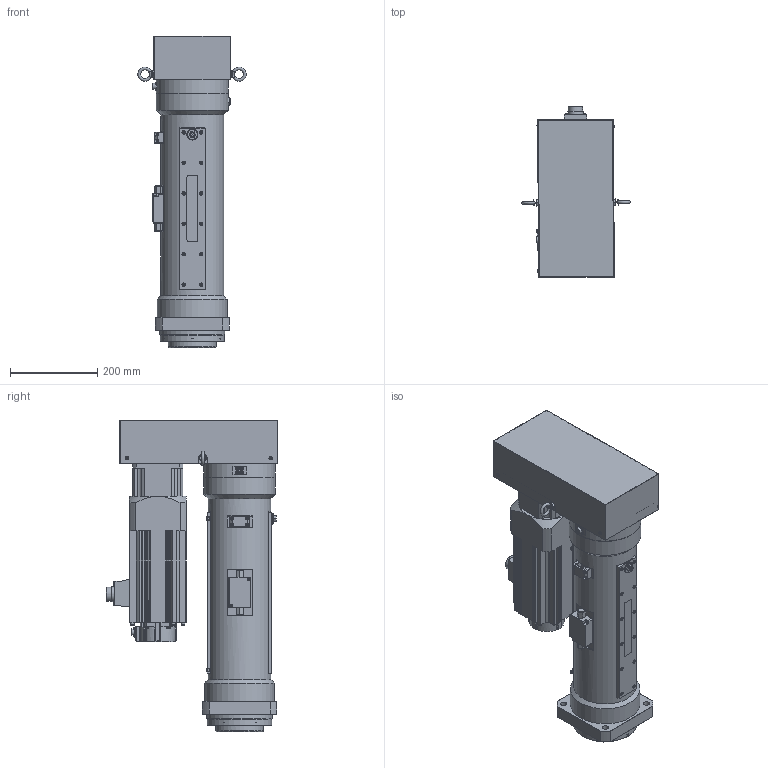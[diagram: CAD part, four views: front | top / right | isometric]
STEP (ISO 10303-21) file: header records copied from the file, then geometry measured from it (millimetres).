
FILE_DESCRIPTION(/* description */ (''),/* implementation_level */ '2;1');
FILE_NAME(/* name */ 'Z:\07.Product\01.Design\3D\1.P-All\OAICS-P\0000.Assembly\OACIS-P090,P100-300-150-A6V200.stp',/* time_stamp */ '2023-03-03T11:07:50+09:00',/* author */ ('magic'),/* organization */ (''),/* preprocessor_version */ 'ST-DEVELOPER v17',/* originating_system */ 'Autodesk Inventor 2019',/* authorisation */ '');
FILE_SCHEMA (('AUTOMOTIVE_DESIGN { 1 0 10303 214 3 1 1 }'));
Products named in the file (1): OACIS-P100-300-150-A6V200
Bounding box: 248.9 x 393.62 x 716 mm (x, y, z)
Volume: 14350638.8 mm3; surface area: 1659379.7 mm2
Topology: 3 solids, 8 shells, 2351 faces, 6442 edges, 4284 vertices
Faces by surface type: plane 1168, cylinder 686, cone 238, bspline 108, torus 91, sphere 60
Full cylindrical faces by diameter (mm): 1 x6, 2 x1, 2.113 x1, 3.242 x6, 3.317 x1, 4 x1, 4.134 x4, 5.8 x2, 6 x1, 6.5 x2, 6.647 x24, 6.75 x4, 7 x36, 7.2 x2, 7.24 x2, 7.8 x2, 8 x43, 8.376 x8, 8.5 x4, 9 x16, 9.188 x1, 9.5 x6, 10.3 x1, 11 x1, 12 x1, 13 x1, 13.835 x8, 14 x13, 14.8 x1, 14.95 x1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
Entity records: 87728 total; most frequent: CARTESIAN_POINT 25554, ORIENTED_EDGE 12645, DIRECTION 12513, EDGE_CURVE 6330, AXIS2_PLACEMENT_3D 4655, VERTEX_POINT 4284, LINE 3203, VECTOR 3203
